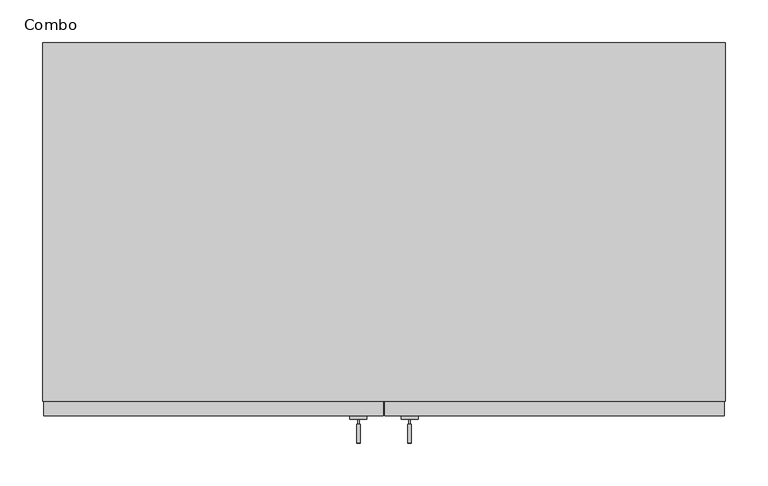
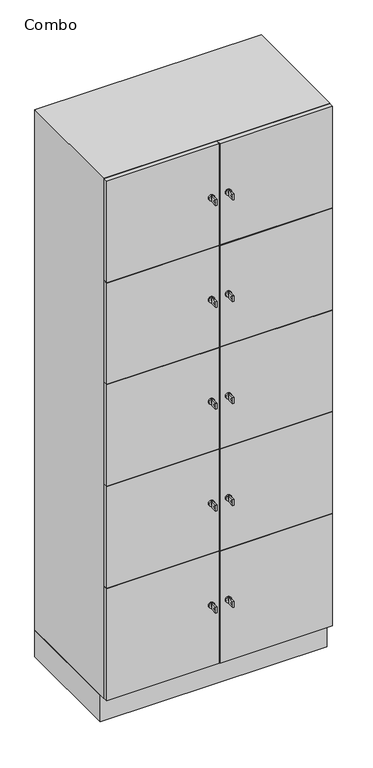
"""IFC4 building model written with IfcOpenShell, lengths in millimetres: furniture geometry, Combo : 585OOOOO."""

import ifcopenshell
import ifcopenshell.guid

model = None  # the IFC model being written
_history = None  # IfcOwnerHistory: only IFC2X3 demands one
_inside = {}  # id of a spatial element -> (the spatial element, [elements in it])
_under = {}  # id of a project, library or spatial element -> (it, [spatial elements below it])
_declared = {}  # id of a project -> (the project, [libraries it declares])
_typed = {}  # id of a type object -> (the type object, [elements of that type])
_made_of = {}  # id of a material, layer set ... -> (it, [elements and type objects made of it])


def new_model(schema):
    """Start an empty IFC model of exactly this schema.

    Asked for "IFC4X3", IfcOpenShell would pick the latest addendum, in which some entities
    have other attributes; the version numbers below select the first issue.
    IFC2X3 requires an IfcOwnerHistory on every rooted entity: one is made here for all.
    """
    global model, _history
    if schema == "IFC4X3":
        model = ifcopenshell.file(schema_version=(4, 3, 0, 0))
    else:
        model = ifcopenshell.file(schema=schema)
    _inside.clear()
    _under.clear()
    _declared.clear()
    _typed.clear()
    _made_of.clear()
    _history = None
    if model.schema == "IFC2X3":
        org = make("IfcOrganization", Name="unknown")
        user = make(
            "IfcPersonAndOrganization",
            ThePerson=make("IfcPerson", FamilyName="unknown"),
            TheOrganization=org,
        )
        app = make(
            "IfcApplication",
            ApplicationDeveloper=org,
            Version="unknown",
            ApplicationFullName="unknown",
            ApplicationIdentifier="unknown",
        )
        _history = make(
            "IfcOwnerHistory",
            OwningUser=user,
            OwningApplication=app,
            ChangeAction="ADDED",
            CreationDate=0,
        )
    return model


def make(cls, **values):
    """One entity of the class cls with the attributes given. An attribute that is None is left unset."""
    return model.create_entity(
        cls, **{name: value for name, value in values.items() if value is not None}
    )


def rooted(cls, **values):
    """An entity with a GlobalId (a new one), such as an element, a storey or a relation."""
    return make(cls, GlobalId=ifcopenshell.guid.new(), OwnerHistory=_history, **values)


def si_unit(unit_type, name, prefix=None):
    """IfcSIUnit, for example si_unit("LENGTHUNIT", "METRE", prefix="MILLI")."""
    return make("IfcSIUnit", UnitType=unit_type, Prefix=prefix, Name=name)


def assignment(units):
    """IfcUnitAssignment: the units of a project."""
    return None if units is None else make("IfcUnitAssignment", Units=units)


def point(xyz):
    """IfcCartesianPoint."""
    return None if xyz is None else make("IfcCartesianPoint", Coordinates=xyz)


def direction(xyz):
    """IfcDirection."""
    return None if xyz is None else make("IfcDirection", DirectionRatios=xyz)


def frame(location, z_axis=None, x_axis=None):
    """IfcAxis2Placement3D, a coordinate frame: its origin and axes. An axis left out is left unset."""
    return make(
        "IfcAxis2Placement3D",
        Location=point(location),
        Axis=direction(z_axis),
        RefDirection=direction(x_axis),
    )


def frame_2d(location, x_axis=None):
    """IfcAxis2Placement2D, a coordinate frame in the plane: its origin and x axis."""
    return make(
        "IfcAxis2Placement2D", Location=point(location), RefDirection=direction(x_axis)
    )


def origin():
    """The frame at (0, 0, 0) with its axes left unset."""
    return frame((0.0, 0.0, 0.0))


def origin_with_axes():
    """The frame at (0, 0, 0) with the z axis (0, 0, 1) and the x axis (1, 0, 0) written out."""
    return frame((0.0, 0.0, 0.0), z_axis=(0.0, 0.0, 1.0), x_axis=(1.0, 0.0, 0.0))


def place(relative_to, where):
    """IfcLocalPlacement: puts the frame where relative to a parent placement (None: the world)."""
    return make(
        "IfcLocalPlacement", PlacementRelTo=relative_to, RelativePlacement=where
    )


def context(
    kind, dimensions, precision=None, world=None, true_north=None, identifier=None
):
    """IfcGeometricRepresentationContext, for example the 3D "Model" context."""
    return make(
        "IfcGeometricRepresentationContext",
        ContextIdentifier=identifier,
        ContextType=kind,
        CoordinateSpaceDimension=dimensions,
        Precision=precision,
        WorldCoordinateSystem=world,
        TrueNorth=true_north,
    )


def project(units=None, contexts=None):
    """IfcProject with its units and contexts."""
    return rooted(
        "IfcProject",
        Name="project",
        RepresentationContexts=contexts,
        UnitsInContext=assignment(units),
    )


def spatial(cls, under=None, at=None, **own):
    """A site, building, storey or space (cls), placed at a placement, below another one or the project."""
    s = rooted(cls, ObjectPlacement=at, **own)
    if under is not None:
        _under.setdefault(under.id(), (under, []))[1].append(s)
    return s


def polyline(points):
    """IfcPolyline through the points."""
    return make("IfcPolyline", Points=[point(p) for p in points])


def circle_curve(where, radius):
    """IfcCircle in the frame where."""
    return make("IfcCircle", Position=where, Radius=radius)


def trimmed(basis, trim1, trim2, sense, master):
    """IfcTrimmedCurve: the piece of a basis curve between two trims."""
    return make(
        "IfcTrimmedCurve",
        BasisCurve=basis,
        Trim1=trim1,
        Trim2=trim2,
        SenseAgreement=sense,
        MasterRepresentation=master,
    )


def segment(curve, same_sense, transition):
    """IfcCompositeCurveSegment."""
    return make(
        "IfcCompositeCurveSegment",
        Transition=transition,
        SameSense=same_sense,
        ParentCurve=curve,
    )


def composite_curve(segments, self_intersect=None):
    """IfcCompositeCurve: segments joined end to end."""
    return make("IfcCompositeCurve", Segments=segments, SelfIntersect=self_intersect)


def outline(outer, holes=None, kind="AREA"):
    """IfcArbitraryClosedProfileDef: a profile drawn as a closed curve; with holes, ...WithVoids."""
    if holes is None:
        return make("IfcArbitraryClosedProfileDef", ProfileType=kind, OuterCurve=outer)
    return make(
        "IfcArbitraryProfileDefWithVoids",
        ProfileType=kind,
        OuterCurve=outer,
        InnerCurves=holes,
    )


def extrude(swept, where, along, depth):
    """IfcExtrudedAreaSolid: the profile swept, set in the frame where, extruded along a direction by depth."""
    return make(
        "IfcExtrudedAreaSolid",
        SweptArea=swept,
        Position=where,
        ExtrudedDirection=direction(along),
        Depth=depth,
    )


def shape(context_of_items, identifier, shape_type, items):
    """IfcShapeRepresentation: the items that make up one representation, for example the "Body"."""
    return make(
        "IfcShapeRepresentation",
        ContextOfItems=context_of_items,
        RepresentationIdentifier=identifier,
        RepresentationType=shape_type,
        Items=items,
    )


def source(mapping_origin, context_of_items, identifier, shape_type, items):
    """IfcRepresentationMap: a shape defined once, which mapped items show again and again."""
    return make(
        "IfcRepresentationMap",
        MappingOrigin=mapping_origin,
        MappedRepresentation=shape(context_of_items, identifier, shape_type, items),
    )


def transform(
    local_origin,
    x_axis=None,
    y_axis=None,
    z_axis=None,
    scale=None,
    scale2=None,
    scale3=None,
    uniform=True,
):
    """IfcCartesianTransformationOperator3D, or its non-uniform kind. x_axis, y_axis, z_axis: its Axis1, 2, 3."""
    if uniform:
        return make(
            "IfcCartesianTransformationOperator3D",
            Axis1=direction(x_axis),
            Axis2=direction(y_axis),
            LocalOrigin=point(local_origin),
            Scale=scale,
            Axis3=direction(z_axis),
        )
    return make(
        "IfcCartesianTransformationOperator3DnonUniform",
        Axis1=direction(x_axis),
        Axis2=direction(y_axis),
        LocalOrigin=point(local_origin),
        Scale=scale,
        Axis3=direction(z_axis),
        Scale2=scale2,
        Scale3=scale3,
    )


def mapped(mapping_source, mapping_target):
    """IfcMappedItem: shows the shape of a source again, moved by a transform."""
    return make(
        "IfcMappedItem", MappingSource=mapping_source, MappingTarget=mapping_target
    )


def made_of(thing, what):
    """Note that an element or type object is made of a material, layer set ...; save() writes the relation."""
    if what is not None:
        _made_of.setdefault(what.id(), (what, []))[1].append(thing)
    return thing


def element(
    cls,
    number,
    at=None,
    inside=None,
    cuts=None,
    type_object=None,
    material=None,
    context=None,
    identifier="Body",
    shape_type=None,
    held_by="IfcProductDefinitionShape",
    body=None,
    shapes=None,
    **own,
):
    """One element of the class cls, such as IfcWall. Its Tag is "e" and its number.

    at: its placement. inside: the storey or other place that contains it. cuts: it is an
    opening in that element (IfcRelVoidsElement). A single representation is given by context,
    identifier, shape_type and body (its items); several are given by shapes. held_by: the class
    of the entity that holds the representations. save() writes the other relations.
    """
    e = rooted(cls, Tag="e%d" % number, ObjectPlacement=at, **own)
    if body is not None:
        shapes = [shape(context, identifier, shape_type, body)]
    if shapes is not None:
        e.Representation = make(held_by, Representations=shapes)
    if inside is not None:
        _inside.setdefault(inside.id(), (inside, []))[1].append(e)
    if cuts is not None:
        rooted(
            "IfcRelVoidsElement", RelatingBuildingElement=cuts, RelatedOpeningElement=e
        )
    if type_object is not None:
        _typed.setdefault(type_object.id(), (type_object, []))[1].append(e)
    return made_of(e, material)


def aggregate(whole, parts):
    """IfcRelAggregates: a whole, such as a stair, and the parts it consists of."""
    return rooted("IfcRelAggregates", RelatingObject=whole, RelatedObjects=parts)


def save(model, path):
    """Write the relations noted so far, then the file.

    IfcRelAggregates (storeys below a building ...), IfcRelContainedInSpatialStructure (elements
    in a storey), IfcRelDefinesByType, IfcRelAssociatesMaterial and IfcRelDeclares: one each for
    every whole, place, type object, material and project.
    """
    for whole, parts in _under.values():
        aggregate(whole, parts)
    for where, things in _inside.values():
        rooted(
            "IfcRelContainedInSpatialStructure",
            RelatedElements=things,
            RelatingStructure=where,
        )
    for kind, things in _typed.values():
        rooted("IfcRelDefinesByType", RelatedObjects=things, RelatingType=kind)
    for what, things in _made_of.values():
        rooted("IfcRelAssociatesMaterial", RelatedObjects=things, RelatingMaterial=what)
    for by, libraries in _declared.values():
        rooted("IfcRelDeclares", RelatingContext=by, RelatedDefinitions=libraries)
    model.write(path)


def combo_fbc3f960(model_context):
    return source(origin(), model_context, "Body", "SweptSolid", [
        extrude(outline(polyline([(-400.0, -400.0), (-400.0, 0.0), (400.0, 0.0), (400.0, -400.0), (-400.0, -400.0)])), origin_with_axes(), (0.0, 0.0, 1.0), 100.0),
        extrude(outline(composite_curve([segment(trimmed(circle_curve(frame_2d((1850.0, -30.0)), 10.0), [point((1850.0, -20.0))], [point((1850.0, -40.0))], False, "CARTESIAN"), True, "CONTINUOUS"), segment(trimmed(circle_curve(frame_2d((1850.0, -30.0)), 10.0), [point((1850.0, -40.0))], [point((1850.0, -20.0))], False, "CARTESIAN"), True, "CONTINUOUS")], self_intersect=False)), frame((0.0, -441.0, 0.0), z_axis=(0.0, 1.0, 0.0), x_axis=(0.0, 0.0, 1.0)), (0.0, 0.0, 1.0), 4.0),
        extrude(outline(polyline([(-469.0, 1861.0), (-447.0, 1861.0), (-447.0, 1839.014113), (-469.0, 1839.014113), (-469.0, 1861.0)]), holes=[composite_curve([segment(trimmed(circle_curve(frame_2d((-462.75, 1850.0070565)), 3.2230706), [point((-462.75, 1846.7839859))], [point((-462.75, 1853.2301271))], True, "CARTESIAN"), True, "CONTINUOUS"), segment(trimmed(circle_curve(frame_2d((-462.75, 1850.0070565)), 3.2230706), [point((-462.75, 1853.2301271))], [point((-462.75, 1846.7839859))], True, "CARTESIAN"), True, "CONTINUOUS")], self_intersect=False)]), frame((-32.0416064, 0.0, 0.0), z_axis=(1.0, 0.0, 0.0), x_axis=(0.0, 1.0, 0.0)), (0.0, 0.0, 1.0), 4.0416064),
        extrude(outline(polyline([(-31.0416064, -447.0), (-31.0416064, -441.0), (-29.0, -441.0), (-29.0, -447.0), (-31.0416064, -447.0)])), frame((0.0, 0.0, 1846.014113), z_axis=(0.0, 0.0, 1.0), x_axis=(1.0, 0.0, 0.0)), (0.0, 0.0, 1.0), 7.985887),
        extrude(outline(composite_curve([segment(trimmed(circle_curve(frame_2d((1850.0, 30.0)), 10.0), [point((1850.0, 20.0))], [point((1850.0, 40.0))], False, "CARTESIAN"), True, "CONTINUOUS"), segment(trimmed(circle_curve(frame_2d((1850.0, 30.0)), 10.0), [point((1850.0, 40.0))], [point((1850.0, 20.0))], False, "CARTESIAN"), True, "CONTINUOUS")], self_intersect=False)), frame((0.0, -441.0, 0.0), z_axis=(0.0, 1.0, 0.0), x_axis=(0.0, 0.0, 1.0)), (0.0, 0.0, 1.0), 4.0),
        extrude(outline(polyline([(-469.0, 1839.014113), (-469.0, 1861.0), (-447.0, 1861.0), (-447.0, 1839.014113), (-469.0, 1839.014113)]), holes=[composite_curve([segment(trimmed(circle_curve(frame_2d((-462.75, 1850.0070565)), 3.2230706), [point((-462.75, 1853.2301271))], [point((-462.75, 1846.7839859))], True, "CARTESIAN"), True, "CONTINUOUS"), segment(trimmed(circle_curve(frame_2d((-462.75, 1850.0070565)), 3.2230706), [point((-462.75, 1846.7839859))], [point((-462.75, 1853.2301271))], True, "CARTESIAN"), True, "CONTINUOUS")], self_intersect=False)]), frame((28.0, 0.0, 0.0), z_axis=(1.0, 0.0, 0.0), x_axis=(0.0, 1.0, 0.0)), (0.0, 0.0, 1.0), 4.0416064),
        extrude(outline(polyline([(31.0416064, -447.0), (29.0, -447.0), (29.0, -441.0), (31.0416064, -441.0), (31.0416064, -447.0)])), frame((0.0, 0.0, 1846.014113), z_axis=(0.0, 0.0, 1.0), x_axis=(1.0, 0.0, 0.0)), (0.0, 0.0, 1.0), 7.985887),
        extrude(outline(composite_curve([segment(trimmed(circle_curve(frame_2d((330.0, -30.0)), 10.0), [point((330.0, -20.0))], [point((330.0, -40.0))], False, "CARTESIAN"), True, "CONTINUOUS"), segment(trimmed(circle_curve(frame_2d((330.0, -30.0)), 10.0), [point((330.0, -40.0))], [point((330.0, -20.0))], False, "CARTESIAN"), True, "CONTINUOUS")], self_intersect=False)), frame((0.0, -441.0, 0.0), z_axis=(0.0, 1.0, 0.0), x_axis=(0.0, 0.0, 1.0)), (0.0, 0.0, 1.0), 4.0),
        extrude(outline(polyline([(-469.0, 319.0), (-469.0, 340.985887), (-447.0, 340.985887), (-447.0, 319.0), (-469.0, 319.0)]), holes=[composite_curve([segment(trimmed(circle_curve(frame_2d((-462.75, 329.9929435)), 3.2230706), [point((-462.75, 333.2160141))], [point((-462.75, 326.7698729))], True, "CARTESIAN"), True, "CONTINUOUS"), segment(trimmed(circle_curve(frame_2d((-462.75, 329.9929435)), 3.2230706), [point((-462.75, 326.7698729))], [point((-462.75, 333.2160141))], True, "CARTESIAN"), True, "CONTINUOUS")], self_intersect=False)]), frame((-32.0416064, 0.0, 0.0), z_axis=(1.0, 0.0, 0.0), x_axis=(0.0, 1.0, 0.0)), (0.0, 0.0, 1.0), 4.0416064),
        extrude(outline(polyline([(-29.0, -447.0), (-31.0416064, -447.0), (-31.0416064, -441.0), (-29.0, -441.0), (-29.0, -447.0)])), frame((0.0, 0.0, 326.0), z_axis=(0.0, 0.0, 1.0), x_axis=(1.0, 0.0, 0.0)), (0.0, 0.0, 1.0), 7.985887),
        extrude(outline(composite_curve([segment(trimmed(circle_curve(frame_2d((1470.0, -30.0)), 10.0), [point((1470.0, -20.0))], [point((1470.0, -40.0))], False, "CARTESIAN"), True, "CONTINUOUS"), segment(trimmed(circle_curve(frame_2d((1470.0, -30.0)), 10.0), [point((1470.0, -40.0))], [point((1470.0, -20.0))], False, "CARTESIAN"), True, "CONTINUOUS")], self_intersect=False)), frame((0.0, -441.0, 0.0), z_axis=(0.0, 1.0, 0.0), x_axis=(0.0, 0.0, 1.0)), (0.0, 0.0, 1.0), 4.0),
        extrude(outline(polyline([(-469.0, 1481.0), (-447.0, 1481.0), (-447.0, 1459.014113), (-469.0, 1459.014113), (-469.0, 1481.0)]), holes=[composite_curve([segment(trimmed(circle_curve(frame_2d((-462.75, 1470.0070565)), 3.2230706), [point((-462.75, 1466.7839859))], [point((-462.75, 1473.2301271))], True, "CARTESIAN"), True, "CONTINUOUS"), segment(trimmed(circle_curve(frame_2d((-462.75, 1470.0070565)), 3.2230706), [point((-462.75, 1473.2301271))], [point((-462.75, 1466.7839859))], True, "CARTESIAN"), True, "CONTINUOUS")], self_intersect=False)]), frame((-32.0416064, 0.0, 0.0), z_axis=(1.0, 0.0, 0.0), x_axis=(0.0, 1.0, 0.0)), (0.0, 0.0, 1.0), 4.0416064),
        extrude(outline(polyline([(-31.0416064, -447.0), (-31.0416064, -441.0), (-29.0, -441.0), (-29.0, -447.0), (-31.0416064, -447.0)])), frame((0.0, 0.0, 1466.014113), z_axis=(0.0, 0.0, 1.0), x_axis=(1.0, 0.0, 0.0)), (0.0, 0.0, 1.0), 7.985887),
        extrude(outline(composite_curve([segment(trimmed(circle_curve(frame_2d((1470.0, 30.0)), 10.0), [point((1470.0, 20.0))], [point((1470.0, 40.0))], False, "CARTESIAN"), True, "CONTINUOUS"), segment(trimmed(circle_curve(frame_2d((1470.0, 30.0)), 10.0), [point((1470.0, 40.0))], [point((1470.0, 20.0))], False, "CARTESIAN"), True, "CONTINUOUS")], self_intersect=False)), frame((0.0, -441.0, 0.0), z_axis=(0.0, 1.0, 0.0), x_axis=(0.0, 0.0, 1.0)), (0.0, 0.0, 1.0), 4.0),
        extrude(outline(polyline([(-469.0, 1459.014113), (-469.0, 1481.0), (-447.0, 1481.0), (-447.0, 1459.014113), (-469.0, 1459.014113)]), holes=[composite_curve([segment(trimmed(circle_curve(frame_2d((-462.75, 1470.0070565)), 3.2230706), [point((-462.75, 1473.2301271))], [point((-462.75, 1466.7839859))], True, "CARTESIAN"), True, "CONTINUOUS"), segment(trimmed(circle_curve(frame_2d((-462.75, 1470.0070565)), 3.2230706), [point((-462.75, 1466.7839859))], [point((-462.75, 1473.2301271))], True, "CARTESIAN"), True, "CONTINUOUS")], self_intersect=False)]), frame((28.0, 0.0, 0.0), z_axis=(1.0, 0.0, 0.0), x_axis=(0.0, 1.0, 0.0)), (0.0, 0.0, 1.0), 4.0416064),
        extrude(outline(polyline([(31.0416064, -447.0), (29.0, -447.0), (29.0, -441.0), (31.0416064, -441.0), (31.0416064, -447.0)])), frame((0.0, 0.0, 1466.014113), z_axis=(0.0, 0.0, 1.0), x_axis=(1.0, 0.0, 0.0)), (0.0, 0.0, 1.0), 7.985887),
        extrude(outline(composite_curve([segment(trimmed(circle_curve(frame_2d((1090.0, -30.0)), 10.0), [point((1090.0, -20.0))], [point((1090.0, -40.0))], False, "CARTESIAN"), True, "CONTINUOUS"), segment(trimmed(circle_curve(frame_2d((1090.0, -30.0)), 10.0), [point((1090.0, -40.0))], [point((1090.0, -20.0))], False, "CARTESIAN"), True, "CONTINUOUS")], self_intersect=False)), frame((0.0, -441.0, 0.0), z_axis=(0.0, 1.0, 0.0), x_axis=(0.0, 0.0, 1.0)), (0.0, 0.0, 1.0), 4.0),
        extrude(outline(polyline([(-469.0, 1101.0), (-447.0, 1101.0), (-447.0, 1079.014113), (-469.0, 1079.014113), (-469.0, 1101.0)]), holes=[composite_curve([segment(trimmed(circle_curve(frame_2d((-462.75, 1090.0070565)), 3.2230706), [point((-462.75, 1086.7839859))], [point((-462.75, 1093.2301271))], True, "CARTESIAN"), True, "CONTINUOUS"), segment(trimmed(circle_curve(frame_2d((-462.75, 1090.0070565)), 3.2230706), [point((-462.75, 1093.2301271))], [point((-462.75, 1086.7839859))], True, "CARTESIAN"), True, "CONTINUOUS")], self_intersect=False)]), frame((-32.0416064, 0.0, 0.0), z_axis=(1.0, 0.0, 0.0), x_axis=(0.0, 1.0, 0.0)), (0.0, 0.0, 1.0), 4.0416064),
        extrude(outline(polyline([(-31.0416064, -447.0), (-31.0416064, -441.0), (-29.0, -441.0), (-29.0, -447.0), (-31.0416064, -447.0)])), frame((0.0, 0.0, 1086.014113), z_axis=(0.0, 0.0, 1.0), x_axis=(1.0, 0.0, 0.0)), (0.0, 0.0, 1.0), 7.985887),
        extrude(outline(composite_curve([segment(trimmed(circle_curve(frame_2d((1090.0, 30.0)), 10.0), [point((1090.0, 20.0))], [point((1090.0, 40.0))], False, "CARTESIAN"), True, "CONTINUOUS"), segment(trimmed(circle_curve(frame_2d((1090.0, 30.0)), 10.0), [point((1090.0, 40.0))], [point((1090.0, 20.0))], False, "CARTESIAN"), True, "CONTINUOUS")], self_intersect=False)), frame((0.0, -441.0, 0.0), z_axis=(0.0, 1.0, 0.0), x_axis=(0.0, 0.0, 1.0)), (0.0, 0.0, 1.0), 4.0),
        extrude(outline(polyline([(-469.0, 1079.014113), (-469.0, 1101.0), (-447.0, 1101.0), (-447.0, 1079.014113), (-469.0, 1079.014113)]), holes=[composite_curve([segment(trimmed(circle_curve(frame_2d((-462.75, 1090.0070565)), 3.2230706), [point((-462.75, 1093.2301271))], [point((-462.75, 1086.7839859))], True, "CARTESIAN"), True, "CONTINUOUS"), segment(trimmed(circle_curve(frame_2d((-462.75, 1090.0070565)), 3.2230706), [point((-462.75, 1086.7839859))], [point((-462.75, 1093.2301271))], True, "CARTESIAN"), True, "CONTINUOUS")], self_intersect=False)]), frame((28.0, 0.0, 0.0), z_axis=(1.0, 0.0, 0.0), x_axis=(0.0, 1.0, 0.0)), (0.0, 0.0, 1.0), 4.0416064),
        extrude(outline(polyline([(31.0416064, -447.0), (29.0, -447.0), (29.0, -441.0), (31.0416064, -441.0), (31.0416064, -447.0)])), frame((0.0, 0.0, 1086.014113), z_axis=(0.0, 0.0, 1.0), x_axis=(1.0, 0.0, 0.0)), (0.0, 0.0, 1.0), 7.985887),
        extrude(outline(composite_curve([segment(trimmed(circle_curve(frame_2d((710.0, -30.0)), 10.0), [point((710.0, -20.0))], [point((710.0, -40.0))], False, "CARTESIAN"), True, "CONTINUOUS"), segment(trimmed(circle_curve(frame_2d((710.0, -30.0)), 10.0), [point((710.0, -40.0))], [point((710.0, -20.0))], False, "CARTESIAN"), True, "CONTINUOUS")], self_intersect=False)), frame((0.0, -441.0, 0.0), z_axis=(0.0, 1.0, 0.0), x_axis=(0.0, 0.0, 1.0)), (0.0, 0.0, 1.0), 4.0),
        extrude(outline(polyline([(-469.0, 721.0), (-447.0, 721.0), (-447.0, 699.014113), (-469.0, 699.014113), (-469.0, 721.0)]), holes=[composite_curve([segment(trimmed(circle_curve(frame_2d((-462.75, 710.0070565)), 3.2230706), [point((-462.75, 706.7839859))], [point((-462.75, 713.2301271))], True, "CARTESIAN"), True, "CONTINUOUS"), segment(trimmed(circle_curve(frame_2d((-462.75, 710.0070565)), 3.2230706), [point((-462.75, 713.2301271))], [point((-462.75, 706.7839859))], True, "CARTESIAN"), True, "CONTINUOUS")], self_intersect=False)]), frame((-32.0416064, 0.0, 0.0), z_axis=(1.0, 0.0, 0.0), x_axis=(0.0, 1.0, 0.0)), (0.0, 0.0, 1.0), 4.0416064),
        extrude(outline(polyline([(-31.0416064, -447.0), (-31.0416064, -441.0), (-29.0, -441.0), (-29.0, -447.0), (-31.0416064, -447.0)])), frame((0.0, 0.0, 706.014113), z_axis=(0.0, 0.0, 1.0), x_axis=(1.0, 0.0, 0.0)), (0.0, 0.0, 1.0), 7.985887),
        extrude(outline(composite_curve([segment(trimmed(circle_curve(frame_2d((330.0, 30.0)), 10.0), [point((330.0, 20.0))], [point((330.0, 40.0))], False, "CARTESIAN"), True, "CONTINUOUS"), segment(trimmed(circle_curve(frame_2d((330.0, 30.0)), 10.0), [point((330.0, 40.0))], [point((330.0, 20.0))], False, "CARTESIAN"), True, "CONTINUOUS")], self_intersect=False)), frame((0.0, -441.0, 0.0), z_axis=(0.0, 1.0, 0.0), x_axis=(0.0, 0.0, 1.0)), (0.0, 0.0, 1.0), 4.0),
        extrude(outline(polyline([(-469.0, 340.985887), (-447.0, 340.985887), (-447.0, 319.0), (-469.0, 319.0), (-469.0, 340.985887)]), holes=[composite_curve([segment(trimmed(circle_curve(frame_2d((-462.75, 329.9929435)), 3.2230706), [point((-462.75, 326.7698729))], [point((-462.75, 333.2160141))], True, "CARTESIAN"), True, "CONTINUOUS"), segment(trimmed(circle_curve(frame_2d((-462.75, 329.9929435)), 3.2230706), [point((-462.75, 333.2160141))], [point((-462.75, 326.7698729))], True, "CARTESIAN"), True, "CONTINUOUS")], self_intersect=False)]), frame((28.0, 0.0, 0.0), z_axis=(1.0, 0.0, 0.0), x_axis=(0.0, 1.0, 0.0)), (0.0, 0.0, 1.0), 4.0416064),
        extrude(outline(polyline([(29.0, -447.0), (29.0, -441.0), (31.0416064, -441.0), (31.0416064, -447.0), (29.0, -447.0)])), frame((0.0, 0.0, 326.0), z_axis=(0.0, 0.0, 1.0), x_axis=(1.0, 0.0, 0.0)), (0.0, 0.0, 1.0), 7.985887),
        extrude(outline(composite_curve([segment(trimmed(circle_curve(frame_2d((710.0, 30.0)), 10.0), [point((710.0, 20.0))], [point((710.0, 40.0))], False, "CARTESIAN"), True, "CONTINUOUS"), segment(trimmed(circle_curve(frame_2d((710.0, 30.0)), 10.0), [point((710.0, 40.0))], [point((710.0, 20.0))], False, "CARTESIAN"), True, "CONTINUOUS")], self_intersect=False)), frame((0.0, -441.0, 0.0), z_axis=(0.0, 1.0, 0.0), x_axis=(0.0, 0.0, 1.0)), (0.0, 0.0, 1.0), 4.0),
        extrude(outline(polyline([(-469.0, 699.014113), (-469.0, 721.0), (-447.0, 721.0), (-447.0, 699.014113), (-469.0, 699.014113)]), holes=[composite_curve([segment(trimmed(circle_curve(frame_2d((-462.75, 710.0070565)), 3.2230706), [point((-462.75, 713.2301271))], [point((-462.75, 706.7839859))], True, "CARTESIAN"), True, "CONTINUOUS"), segment(trimmed(circle_curve(frame_2d((-462.75, 710.0070565)), 3.2230706), [point((-462.75, 706.7839859))], [point((-462.75, 713.2301271))], True, "CARTESIAN"), True, "CONTINUOUS")], self_intersect=False)]), frame((28.0, 0.0, 0.0), z_axis=(1.0, 0.0, 0.0), x_axis=(0.0, 1.0, 0.0)), (0.0, 0.0, 1.0), 4.0416064),
        extrude(outline(polyline([(31.0416064, -447.0), (29.0, -447.0), (29.0, -441.0), (31.0416064, -441.0), (31.0416064, -447.0)])), frame((0.0, 0.0, 706.014113), z_axis=(0.0, 0.0, 1.0), x_axis=(1.0, 0.0, 0.0)), (0.0, 0.0, 1.0), 7.985887),
        extrude(outline(polyline([(-1.0, -437.0), (-399.0, -437.0), (-399.0, -421.0), (-1.0, -421.0), (-1.0, -437.0)])), frame((0.0, 0.0, 1661.0), z_axis=(0.0, 0.0, 1.0), x_axis=(1.0, 0.0, 0.0)), (0.0, 0.0, 1.0), 378.0),
        extrude(outline(polyline([(399.0, -437.0), (1.0, -437.0), (1.0, -421.0), (399.0, -421.0), (399.0, -437.0)])), frame((0.0, 0.0, 1661.0), z_axis=(0.0, 0.0, 1.0), x_axis=(1.0, 0.0, 0.0)), (0.0, 0.0, 1.0), 378.0),
        extrude(outline(polyline([(-1.0, -437.0), (-399.0, -437.0), (-399.0, -421.0), (-1.0, -421.0), (-1.0, -437.0)])), frame((0.0, 0.0, 1281.0), z_axis=(0.0, 0.0, 1.0), x_axis=(1.0, 0.0, 0.0)), (0.0, 0.0, 1.0), 378.0),
        extrude(outline(polyline([(399.0, -437.0), (1.0, -437.0), (1.0, -421.0), (399.0, -421.0), (399.0, -437.0)])), frame((0.0, 0.0, 1281.0), z_axis=(0.0, 0.0, 1.0), x_axis=(1.0, 0.0, 0.0)), (0.0, 0.0, 1.0), 378.0),
        extrude(outline(polyline([(-1.0, -437.0), (-399.0, -437.0), (-399.0, -421.0), (-1.0, -421.0), (-1.0, -437.0)])), frame((0.0, 0.0, 901.0), z_axis=(0.0, 0.0, 1.0), x_axis=(1.0, 0.0, 0.0)), (0.0, 0.0, 1.0), 378.0),
        extrude(outline(polyline([(399.0, -437.0), (1.0, -437.0), (1.0, -421.0), (399.0, -421.0), (399.0, -437.0)])), frame((0.0, 0.0, 901.0), z_axis=(0.0, 0.0, 1.0), x_axis=(1.0, 0.0, 0.0)), (0.0, 0.0, 1.0), 378.0),
        extrude(outline(polyline([(-1.0, -437.0), (-399.0, -437.0), (-399.0, -421.0), (-1.0, -421.0), (-1.0, -437.0)])), frame((0.0, 0.0, 521.0), z_axis=(0.0, 0.0, 1.0), x_axis=(1.0, 0.0, 0.0)), (0.0, 0.0, 1.0), 378.0),
        extrude(outline(polyline([(399.0, -437.0), (1.0, -437.0), (1.0, -421.0), (399.0, -421.0), (399.0, -437.0)])), frame((0.0, 0.0, 521.0), z_axis=(0.0, 0.0, 1.0), x_axis=(1.0, 0.0, 0.0)), (0.0, 0.0, 1.0), 378.0),
        extrude(outline(polyline([(-1.0, -437.0), (-399.0, -437.0), (-399.0, -421.0), (-1.0, -421.0), (-1.0, -437.0)])), frame((0.0, 0.0, 101.0), z_axis=(0.0, 0.0, 1.0), x_axis=(1.0, 0.0, 0.0)), (0.0, 0.0, 1.0), 418.0),
        extrude(outline(polyline([(399.0, -437.0), (1.0, -437.0), (1.0, -421.0), (399.0, -421.0), (399.0, -437.0)])), frame((0.0, 0.0, 101.0), z_axis=(0.0, 0.0, 1.0), x_axis=(1.0, 0.0, 0.0)), (0.0, 0.0, 1.0), 418.0),
        extrude(outline(polyline([(400.0, 0.0), (400.0, -420.0), (-400.0, -420.0), (-400.0, 0.0), (400.0, 0.0)])), frame((0.0, 0.0, 100.0), z_axis=(0.0, 0.0, 1.0), x_axis=(1.0, 0.0, 0.0)), (0.0, 0.0, 1.0), 1940.0),
    ])


if __name__ == "__main__":
    model = new_model("IFC4")
    model_context = context("Model", 3, world=origin())
    ifc_project = project(units=[si_unit("LENGTHUNIT", "METRE", prefix="MILLI")], contexts=[model_context])
    site = spatial("IfcSite", under=ifc_project)
    building = spatial("IfcBuilding", under=site)
    placement = place(None, origin())
    combo_shape = combo_fbc3f960(model_context)
    element("IfcFurniture", 1, ObjectType="Combo : 585OOOOO", at=placement, inside=building, context=model_context, shape_type="MappedRepresentation", body=[
        mapped(combo_shape, transform((0.0, 0.0, 0.0), x_axis=(1.0, 0.0, 0.0), y_axis=(0.0, 1.0, 0.0), z_axis=(0.0, 0.0, 1.0))),
    ])
    save(model, "model.ifc")
